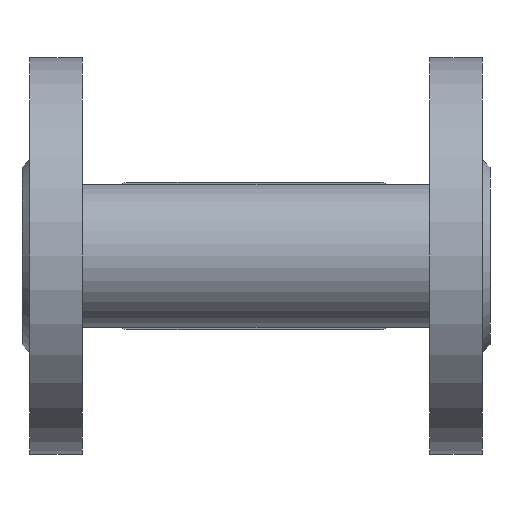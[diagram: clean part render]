
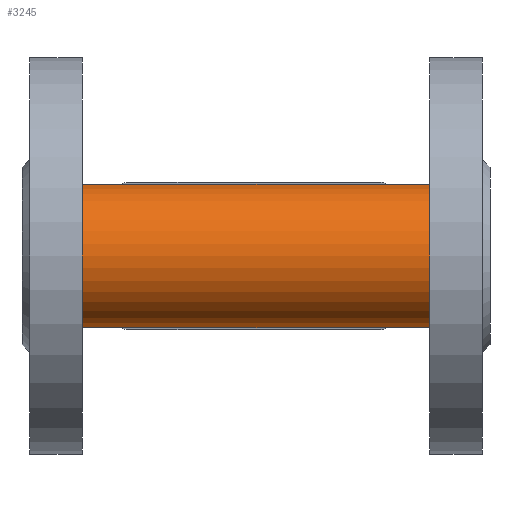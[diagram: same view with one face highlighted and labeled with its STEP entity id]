
A CAD part, front view. The second image highlights one B-rep face of the part: STEP entity #3245.
In plain terms, the highlighted cylindrical face has radius 19 mm (diameter 38 mm), a full revolution.
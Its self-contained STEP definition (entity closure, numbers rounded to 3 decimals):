
#1122=ELLIPSE('',#27340,26.87,19.);
#1123=ELLIPSE('',#27341,26.87,19.);
#1124=ELLIPSE('',#27342,26.87,19.);
#1125=ELLIPSE('',#27343,26.87,19.);
#1136=CYLINDRICAL_SURFACE('',#27346,19.);
#2421=FACE_BOUND('',#6917,.T.);
#2422=FACE_BOUND('',#6918,.T.);
#2423=FACE_BOUND('',#6919,.T.);
#3245=ADVANCED_FACE('',(#2421,#2422,#2423),#1136,.T.);
#6917=EDGE_LOOP('',(#9854,#9855,#9856,#9857,#9858,#9859));
#6918=EDGE_LOOP('',(#9860));
#6919=EDGE_LOOP('',(#9861));
#8969=CIRCLE('',#27344,19.);
#8970=CIRCLE('',#27345,19.);
#9854=ORIENTED_EDGE('',*,*,#19521,.T.);
#9855=ORIENTED_EDGE('',*,*,#19522,.T.);
#9856=ORIENTED_EDGE('',*,*,#19523,.T.);
#9857=ORIENTED_EDGE('',*,*,#19524,.T.);
#9858=ORIENTED_EDGE('',*,*,#19525,.T.);
#9859=ORIENTED_EDGE('',*,*,#19526,.T.);
#9860=ORIENTED_EDGE('',*,*,#19527,.F.);
#9861=ORIENTED_EDGE('',*,*,#19528,.F.);
#17066=VERTEX_POINT('',#36205);
#17067=VERTEX_POINT('',#36206);
#17068=VERTEX_POINT('',#36208);
#17069=VERTEX_POINT('',#36210);
#17070=VERTEX_POINT('',#36212);
#17071=VERTEX_POINT('',#36214);
#17072=VERTEX_POINT('',#36217);
#17073=VERTEX_POINT('',#36219);
#19521=EDGE_CURVE('',#17066,#17067,#1122,.T.);
#19522=EDGE_CURVE('',#17067,#17068,#1123,.T.);
#19523=EDGE_CURVE('',#17068,#17069,#23124,.T.);
#19524=EDGE_CURVE('',#17069,#17070,#1124,.T.);
#19525=EDGE_CURVE('',#17070,#17071,#1125,.T.);
#19526=EDGE_CURVE('',#17071,#17066,#23125,.T.);
#19527=EDGE_CURVE('',#17072,#17072,#8969,.T.);
#19528=EDGE_CURVE('',#17073,#17073,#8970,.T.);
#23124=LINE('',#36209,#25110);
#23125=LINE('',#36215,#25111);
#25110=VECTOR('',#29566,1.);
#25111=VECTOR('',#29571,1.);
#27340=AXIS2_PLACEMENT_3D('',#36204,#29562,#29563);
#27341=AXIS2_PLACEMENT_3D('',#36207,#29564,#29565);
#27342=AXIS2_PLACEMENT_3D('',#36211,#29567,#29568);
#27343=AXIS2_PLACEMENT_3D('',#36213,#29569,#29570);
#27344=AXIS2_PLACEMENT_3D('',#36216,#29572,#29573);
#27345=AXIS2_PLACEMENT_3D('',#36218,#29574,#29575);
#27346=AXIS2_PLACEMENT_3D('',#36220,#29576,#29577);
#29562=DIRECTION('',(-0.707,-0.707,0.));
#29563=DIRECTION('',(-0.707,0.707,0.));
#29564=DIRECTION('',(-0.707,-0.707,0.));
#29565=DIRECTION('',(-0.707,0.707,0.));
#29566=DIRECTION('',(1.,0.,0.));
#29567=DIRECTION('',(0.707,-0.707,0.));
#29568=DIRECTION('',(-0.707,-0.707,0.));
#29569=DIRECTION('',(0.707,-0.707,0.));
#29570=DIRECTION('',(-0.707,-0.707,0.));
#29571=DIRECTION('',(-1.,0.,0.));
#29572=DIRECTION('',(1.,0.,0.));
#29573=DIRECTION('',(0.,0.,1.));
#29574=DIRECTION('',(-1.,0.,0.));
#29575=DIRECTION('',(0.,0.,-1.));
#29576=DIRECTION('',(-1.,0.,0.));
#29577=DIRECTION('',(0.,0.,1.));
#36204=CARTESIAN_POINT('',(35.,-12.49,780.5));
#36205=CARTESIAN_POINT('',(20.,2.51,792.162));
#36206=CARTESIAN_POINT('',(16.,6.51,780.5));
#36207=CARTESIAN_POINT('',(35.,-12.49,780.5));
#36208=CARTESIAN_POINT('',(20.,2.51,768.838));
#36209=CARTESIAN_POINT('',(76.,2.51,768.838));
#36210=CARTESIAN_POINT('',(70.,2.51,768.838));
#36211=CARTESIAN_POINT('',(55.,-12.49,780.5));
#36212=CARTESIAN_POINT('',(74.,6.51,780.5));
#36213=CARTESIAN_POINT('',(55.,-12.49,780.5));
#36214=CARTESIAN_POINT('',(70.,2.51,792.162));
#36215=CARTESIAN_POINT('',(76.,2.51,792.162));
#36216=CARTESIAN_POINT('',(93.,-12.49,780.5));
#36217=CARTESIAN_POINT('',(93.,-12.49,799.5));
#36218=CARTESIAN_POINT('',(-3.,-12.49,780.5));
#36219=CARTESIAN_POINT('',(-3.,-12.49,761.5));
#36220=CARTESIAN_POINT('',(76.,-12.49,780.5));
